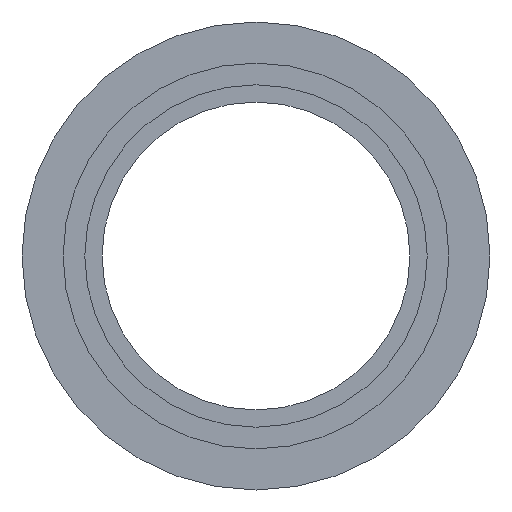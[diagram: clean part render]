
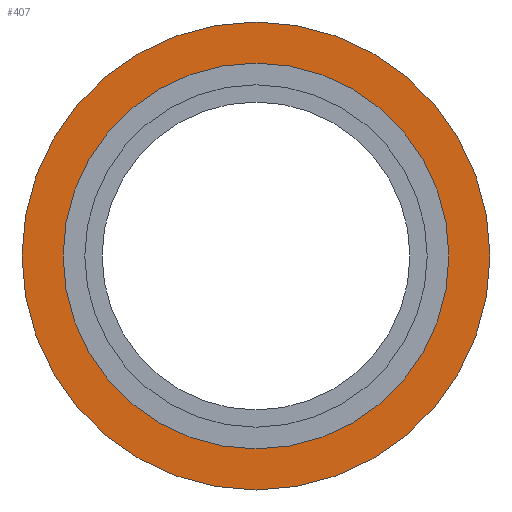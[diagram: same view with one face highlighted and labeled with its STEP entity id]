
A CAD part, left-side view. The second image highlights one B-rep face of the part: STEP entity #407.
In plain terms, the highlighted planar face has unit normal (-1, 0, 0).
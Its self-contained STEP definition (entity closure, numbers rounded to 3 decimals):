
#236 = CYLINDRICAL_SURFACE('',#237,11.4);
#237 = AXIS2_PLACEMENT_3D('',#238,#239,#240);
#238 = CARTESIAN_POINT('',(-47.,0.,115.));
#239 = DIRECTION('',(-1.,-0.,-0.));
#240 = DIRECTION('',(-0.,-0.,1.));
#293 = EDGE_CURVE('',#294,#294,#296,.T.);
#294 = VERTEX_POINT('',#295);
#295 = CARTESIAN_POINT('',(-52.,0.,126.4));
#296 = SURFACE_CURVE('',#297,(#302,#309),.PCURVE_S1.);
#297 = CIRCLE('',#298,11.4);
#298 = AXIS2_PLACEMENT_3D('',#299,#300,#301);
#299 = CARTESIAN_POINT('',(-52.,0.,115.));
#300 = DIRECTION('',(1.,-0.,0.));
#301 = DIRECTION('',(-0.,-0.,1.));
#302 = PCURVE('',#236,#303);
#303 = DEFINITIONAL_REPRESENTATION('',(#304),#308);
#304 = LINE('',#305,#306);
#305 = CARTESIAN_POINT('',(-0.,5.));
#306 = VECTOR('',#307,1.);
#307 = DIRECTION('',(-1.,0.));
#308 = ( GEOMETRIC_REPRESENTATION_CONTEXT(2) 
PARAMETRIC_REPRESENTATION_CONTEXT() REPRESENTATION_CONTEXT('2D SPACE',''
  ) );
#309 = PCURVE('',#310,#315);
#310 = PLANE('',#311);
#311 = AXIS2_PLACEMENT_3D('',#312,#313,#314);
#312 = CARTESIAN_POINT('',(-52.,0.,115.));
#313 = DIRECTION('',(-1.,-0.,-0.));
#314 = DIRECTION('',(0.,0.,-1.));
#315 = DEFINITIONAL_REPRESENTATION('',(#316),#324);
#316 = ( BOUNDED_CURVE() B_SPLINE_CURVE(2,(#317,#318,#319,#320,#321,#322
,#323),.UNSPECIFIED.,.T.,.F.) B_SPLINE_CURVE_WITH_KNOTS((1,2,2,2,2,1),(
    -2.094,0.,2.094,4.189,6.283,
8.378),.UNSPECIFIED.) CURVE() GEOMETRIC_REPRESENTATION_ITEM() 
RATIONAL_B_SPLINE_CURVE((1.,0.5,1.,0.5,1.,0.5,1.)) REPRESENTATION_ITEM(
  '') );
#317 = CARTESIAN_POINT('',(-11.4,0.));
#318 = CARTESIAN_POINT('',(-11.4,19.745));
#319 = CARTESIAN_POINT('',(5.7,9.873));
#320 = CARTESIAN_POINT('',(22.8,0.));
#321 = CARTESIAN_POINT('',(5.7,-9.873));
#322 = CARTESIAN_POINT('',(-11.4,-19.745));
#323 = CARTESIAN_POINT('',(-11.4,0.));
#324 = ( GEOMETRIC_REPRESENTATION_CONTEXT(2) 
PARAMETRIC_REPRESENTATION_CONTEXT() REPRESENTATION_CONTEXT('2D SPACE',''
  ) );
#407 = ADVANCED_FACE('',(#408,#411),#310,.T.);
#408 = FACE_BOUND('',#409,.F.);
#409 = EDGE_LOOP('',(#410));
#410 = ORIENTED_EDGE('',*,*,#293,.T.);
#411 = FACE_BOUND('',#412,.F.);
#412 = EDGE_LOOP('',(#413));
#413 = ORIENTED_EDGE('',*,*,#414,.F.);
#414 = EDGE_CURVE('',#415,#415,#417,.T.);
#415 = VERTEX_POINT('',#416);
#416 = CARTESIAN_POINT('',(-52.,0.,124.4));
#417 = SURFACE_CURVE('',#418,(#423,#434),.PCURVE_S1.);
#418 = CIRCLE('',#419,9.4);
#419 = AXIS2_PLACEMENT_3D('',#420,#421,#422);
#420 = CARTESIAN_POINT('',(-52.,0.,115.));
#421 = DIRECTION('',(1.,-0.,0.));
#422 = DIRECTION('',(-0.,-0.,1.));
#423 = PCURVE('',#310,#424);
#424 = DEFINITIONAL_REPRESENTATION('',(#425),#433);
#425 = ( BOUNDED_CURVE() B_SPLINE_CURVE(2,(#426,#427,#428,#429,#430,#431
,#432),.UNSPECIFIED.,.T.,.F.) B_SPLINE_CURVE_WITH_KNOTS((1,2,2,2,2,1),(
    -2.094,0.,2.094,4.189,6.283,
8.378),.UNSPECIFIED.) CURVE() GEOMETRIC_REPRESENTATION_ITEM() 
RATIONAL_B_SPLINE_CURVE((1.,0.5,1.,0.5,1.,0.5,1.)) REPRESENTATION_ITEM(
  '') );
#426 = CARTESIAN_POINT('',(-9.4,0.));
#427 = CARTESIAN_POINT('',(-9.4,16.281));
#428 = CARTESIAN_POINT('',(4.7,8.141));
#429 = CARTESIAN_POINT('',(18.8,0.));
#430 = CARTESIAN_POINT('',(4.7,-8.141));
#431 = CARTESIAN_POINT('',(-9.4,-16.281));
#432 = CARTESIAN_POINT('',(-9.4,0.));
#433 = ( GEOMETRIC_REPRESENTATION_CONTEXT(2) 
PARAMETRIC_REPRESENTATION_CONTEXT() REPRESENTATION_CONTEXT('2D SPACE',''
  ) );
#434 = PCURVE('',#435,#440);
#435 = CYLINDRICAL_SURFACE('',#436,9.4);
#436 = AXIS2_PLACEMENT_3D('',#437,#438,#439);
#437 = CARTESIAN_POINT('',(-50.5,0.,115.));
#438 = DIRECTION('',(-1.,-0.,-0.));
#439 = DIRECTION('',(-0.,-0.,1.));
#440 = DEFINITIONAL_REPRESENTATION('',(#441),#445);
#441 = LINE('',#442,#443);
#442 = CARTESIAN_POINT('',(-0.,1.5));
#443 = VECTOR('',#444,1.);
#444 = DIRECTION('',(-1.,0.));
#445 = ( GEOMETRIC_REPRESENTATION_CONTEXT(2) 
PARAMETRIC_REPRESENTATION_CONTEXT() REPRESENTATION_CONTEXT('2D SPACE',''
  ) );
